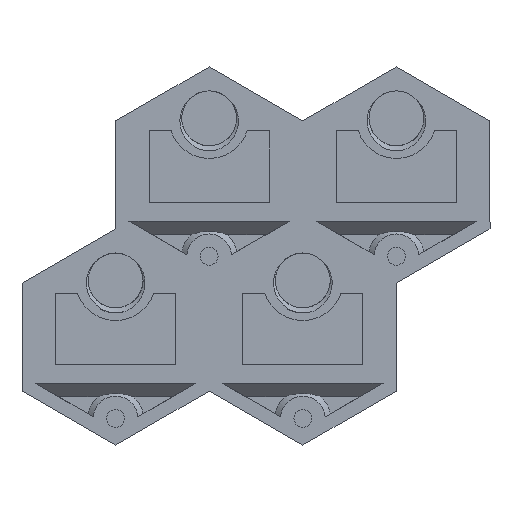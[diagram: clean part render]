
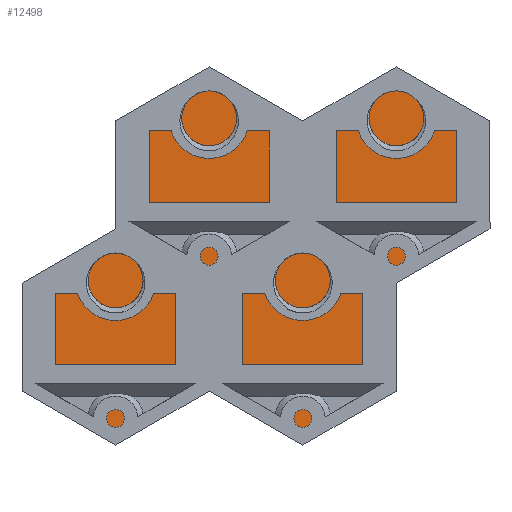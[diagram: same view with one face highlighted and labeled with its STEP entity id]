
A CAD part, left-side view. The second image highlights one B-rep face of the part: STEP entity #12498.
In plain terms, the highlighted planar face has unit normal (-1, 0, 0).
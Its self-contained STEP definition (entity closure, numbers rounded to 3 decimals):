
#368=PLANE('',#13261);
#921=FACE_OUTER_BOUND('',#1638,.T.);
#1638=EDGE_LOOP('',(#9637,#9638,#9639,#9640,#9641,#9642,#9643,#9644,#9645,
#9646,#9647,#9648,#9649,#9650));
#3043=LINE('',#23020,#4402);
#3047=LINE('',#23028,#4406);
#3050=LINE('',#23034,#4409);
#3053=LINE('',#23040,#4412);
#3056=LINE('',#23046,#4415);
#3059=LINE('',#23052,#4418);
#3062=LINE('',#23058,#4421);
#3065=LINE('',#23064,#4424);
#3069=LINE('',#23072,#4428);
#3072=LINE('',#23078,#4431);
#3075=LINE('',#23084,#4434);
#3078=LINE('',#23090,#4437);
#3081=LINE('',#23096,#4440);
#3084=LINE('',#23100,#4443);
#4402=VECTOR('',#14808,10.);
#4406=VECTOR('',#14814,10.);
#4409=VECTOR('',#14819,10.);
#4412=VECTOR('',#14824,10.);
#4415=VECTOR('',#14829,10.);
#4418=VECTOR('',#14834,10.);
#4421=VECTOR('',#14839,10.);
#4424=VECTOR('',#14844,10.);
#4428=VECTOR('',#14850,10.);
#4431=VECTOR('',#14855,10.);
#4434=VECTOR('',#14860,10.);
#4437=VECTOR('',#14865,10.);
#4440=VECTOR('',#14870,10.);
#4443=VECTOR('',#14875,10.);
#5716=VERTEX_POINT('',#23018);
#5717=VERTEX_POINT('',#23019);
#5720=VERTEX_POINT('',#23027);
#5722=VERTEX_POINT('',#23033);
#5724=VERTEX_POINT('',#23039);
#5726=VERTEX_POINT('',#23045);
#5728=VERTEX_POINT('',#23051);
#5730=VERTEX_POINT('',#23057);
#5732=VERTEX_POINT('',#23063);
#5735=VERTEX_POINT('',#23071);
#5737=VERTEX_POINT('',#23077);
#5739=VERTEX_POINT('',#23083);
#5741=VERTEX_POINT('',#23089);
#5743=VERTEX_POINT('',#23095);
#7125=EDGE_CURVE('',#5716,#5717,#3043,.T.);
#7129=EDGE_CURVE('',#5717,#5720,#3047,.T.);
#7132=EDGE_CURVE('',#5720,#5722,#3050,.T.);
#7135=EDGE_CURVE('',#5722,#5724,#3053,.T.);
#7138=EDGE_CURVE('',#5724,#5726,#3056,.T.);
#7141=EDGE_CURVE('',#5726,#5728,#3059,.T.);
#7144=EDGE_CURVE('',#5728,#5730,#3062,.T.);
#7147=EDGE_CURVE('',#5730,#5732,#3065,.T.);
#7151=EDGE_CURVE('',#5732,#5735,#3069,.T.);
#7154=EDGE_CURVE('',#5735,#5737,#3072,.T.);
#7157=EDGE_CURVE('',#5737,#5739,#3075,.T.);
#7160=EDGE_CURVE('',#5739,#5741,#3078,.T.);
#7163=EDGE_CURVE('',#5741,#5743,#3081,.T.);
#7166=EDGE_CURVE('',#5743,#5716,#3084,.T.);
#9637=ORIENTED_EDGE('',*,*,#7125,.F.);
#9638=ORIENTED_EDGE('',*,*,#7166,.F.);
#9639=ORIENTED_EDGE('',*,*,#7163,.F.);
#9640=ORIENTED_EDGE('',*,*,#7160,.F.);
#9641=ORIENTED_EDGE('',*,*,#7157,.F.);
#9642=ORIENTED_EDGE('',*,*,#7154,.F.);
#9643=ORIENTED_EDGE('',*,*,#7151,.F.);
#9644=ORIENTED_EDGE('',*,*,#7147,.F.);
#9645=ORIENTED_EDGE('',*,*,#7144,.F.);
#9646=ORIENTED_EDGE('',*,*,#7141,.F.);
#9647=ORIENTED_EDGE('',*,*,#7138,.F.);
#9648=ORIENTED_EDGE('',*,*,#7135,.F.);
#9649=ORIENTED_EDGE('',*,*,#7132,.F.);
#9650=ORIENTED_EDGE('',*,*,#7129,.F.);
#12498=ADVANCED_FACE('',(#921),#368,.T.);
#13261=AXIS2_PLACEMENT_3D('',#23101,#14876,#14877);
#14808=DIRECTION('',(0.,0.,-1.));
#14814=DIRECTION('',(0.,0.866,-0.5));
#14819=DIRECTION('',(0.,0.,-1.));
#14824=DIRECTION('',(0.,0.866,-0.5));
#14829=DIRECTION('',(0.,0.866,0.5));
#14834=DIRECTION('',(0.,0.866,-0.5));
#14839=DIRECTION('',(0.,0.866,0.5));
#14844=DIRECTION('',(0.,0.,1.));
#14850=DIRECTION('',(0.,-0.866,0.5));
#14855=DIRECTION('',(0.,0.,1.));
#14860=DIRECTION('',(0.,-0.866,0.5));
#14865=DIRECTION('',(0.,-0.866,-0.5));
#14870=DIRECTION('',(0.,-0.866,0.5));
#14875=DIRECTION('',(0.,-0.866,-0.5));
#14876=DIRECTION('center_axis',(-1.,0.,0.));
#14877=DIRECTION('ref_axis',(0.,0.,1.));
#23018=CARTESIAN_POINT('',(0.,-62.6,84.639));
#23019=CARTESIAN_POINT('',(0.,-62.6,60.853));
#23020=CARTESIAN_POINT('',(0.,-62.6,57.591));
#23027=CARTESIAN_POINT('',(0.,-41.6,48.728));
#23028=CARTESIAN_POINT('',(0.,-31.3,42.782));
#23033=CARTESIAN_POINT('',(0.,-41.6,24.48));
#23034=CARTESIAN_POINT('',(0.,-41.6,39.404));
#23039=CARTESIAN_POINT('',(0.,-21.,12.586));
#23040=CARTESIAN_POINT('',(0.,-26.05,15.502));
#23045=CARTESIAN_POINT('',(0.,0.,24.711));
#23046=CARTESIAN_POINT('',(0.,2.425,26.111));
#23051=CARTESIAN_POINT('',(0.,21.,12.586));
#23052=CARTESIAN_POINT('',(0.,0.2,24.595));
#23057=CARTESIAN_POINT('',(0.,41.6,24.48));
#23058=CARTESIAN_POINT('',(0.,28.675,17.017));
#23063=CARTESIAN_POINT('',(0.,41.6,48.266));
#23064=CARTESIAN_POINT('',(0.,41.6,51.528));
#23071=CARTESIAN_POINT('',(0.,20.6,60.391));
#23072=CARTESIAN_POINT('',(0.,10.3,66.338));
#23077=CARTESIAN_POINT('',(0.,20.6,84.639));
#23078=CARTESIAN_POINT('',(0.,20.6,69.715));
#23083=CARTESIAN_POINT('',(0.,0.,96.533));
#23084=CARTESIAN_POINT('',(0.,5.05,93.617));
#23089=CARTESIAN_POINT('',(0.,-21.,84.409));
#23090=CARTESIAN_POINT('',(0.,-23.425,83.008));
#23095=CARTESIAN_POINT('',(0.,-42.,96.533));
#23096=CARTESIAN_POINT('',(0.,-21.2,84.524));
#23100=CARTESIAN_POINT('',(0.,-49.675,92.102));
#23101=CARTESIAN_POINT('Origin',(0.,-10.5,54.56));
